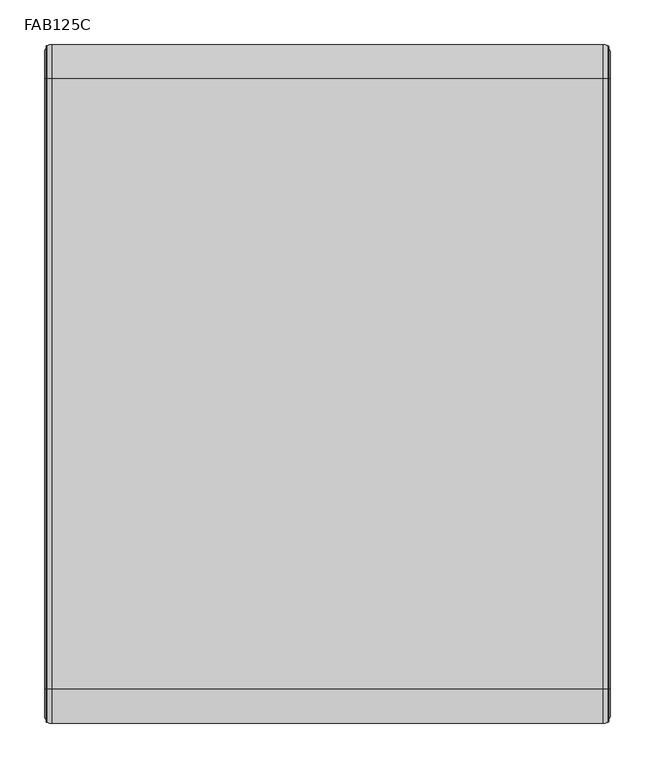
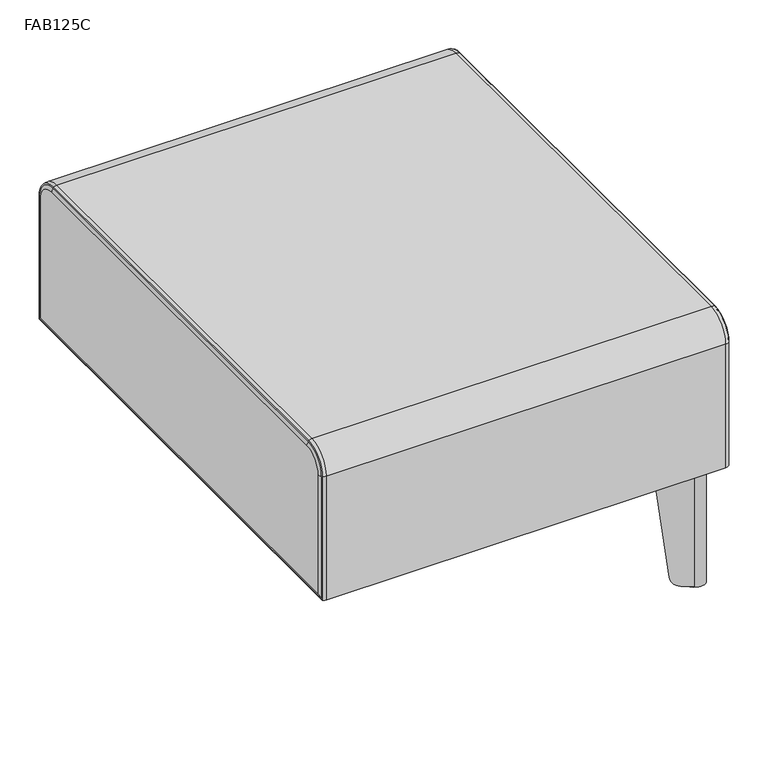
"""IFC4 building model written with IfcOpenShell, lengths in millimetres: furniture geometry, Stance_HC-Flora-Bench_Straight : FAB125C."""

import ifcopenshell
import ifcopenshell.guid

model = None  # the IFC model being written
_history = None  # IfcOwnerHistory: only IFC2X3 demands one
_inside = {}  # id of a spatial element -> (the spatial element, [elements in it])
_under = {}  # id of a project, library or spatial element -> (it, [spatial elements below it])
_declared = {}  # id of a project -> (the project, [libraries it declares])
_typed = {}  # id of a type object -> (the type object, [elements of that type])
_made_of = {}  # id of a material, layer set ... -> (it, [elements and type objects made of it])


def new_model(schema):
    """Start an empty IFC model of exactly this schema.

    Asked for "IFC4X3", IfcOpenShell would pick the latest addendum, in which some entities
    have other attributes; the version numbers below select the first issue.
    IFC2X3 requires an IfcOwnerHistory on every rooted entity: one is made here for all.
    """
    global model, _history
    if schema == "IFC4X3":
        model = ifcopenshell.file(schema_version=(4, 3, 0, 0))
    else:
        model = ifcopenshell.file(schema=schema)
    _inside.clear()
    _under.clear()
    _declared.clear()
    _typed.clear()
    _made_of.clear()
    _history = None
    if model.schema == "IFC2X3":
        org = make("IfcOrganization", Name="unknown")
        user = make(
            "IfcPersonAndOrganization",
            ThePerson=make("IfcPerson", FamilyName="unknown"),
            TheOrganization=org,
        )
        app = make(
            "IfcApplication",
            ApplicationDeveloper=org,
            Version="unknown",
            ApplicationFullName="unknown",
            ApplicationIdentifier="unknown",
        )
        _history = make(
            "IfcOwnerHistory",
            OwningUser=user,
            OwningApplication=app,
            ChangeAction="ADDED",
            CreationDate=0,
        )
    return model


def make(cls, **values):
    """One entity of the class cls with the attributes given. An attribute that is None is left unset."""
    return model.create_entity(
        cls, **{name: value for name, value in values.items() if value is not None}
    )


def rooted(cls, **values):
    """An entity with a GlobalId (a new one), such as an element, a storey or a relation."""
    return make(cls, GlobalId=ifcopenshell.guid.new(), OwnerHistory=_history, **values)


def si_unit(unit_type, name, prefix=None):
    """IfcSIUnit, for example si_unit("LENGTHUNIT", "METRE", prefix="MILLI")."""
    return make("IfcSIUnit", UnitType=unit_type, Prefix=prefix, Name=name)


def assignment(units):
    """IfcUnitAssignment: the units of a project."""
    return None if units is None else make("IfcUnitAssignment", Units=units)


def point(xyz):
    """IfcCartesianPoint."""
    return None if xyz is None else make("IfcCartesianPoint", Coordinates=xyz)


def direction(xyz):
    """IfcDirection."""
    return None if xyz is None else make("IfcDirection", DirectionRatios=xyz)


def frame(location, z_axis=None, x_axis=None):
    """IfcAxis2Placement3D, a coordinate frame: its origin and axes. An axis left out is left unset."""
    return make(
        "IfcAxis2Placement3D",
        Location=point(location),
        Axis=direction(z_axis),
        RefDirection=direction(x_axis),
    )


def frame_2d(location, x_axis=None):
    """IfcAxis2Placement2D, a coordinate frame in the plane: its origin and x axis."""
    return make(
        "IfcAxis2Placement2D", Location=point(location), RefDirection=direction(x_axis)
    )


def origin():
    """The frame at (0, 0, 0) with its axes left unset."""
    return frame((0.0, 0.0, 0.0))


def origin_with_axes():
    """The frame at (0, 0, 0) with the z axis (0, 0, 1) and the x axis (1, 0, 0) written out."""
    return frame((0.0, 0.0, 0.0), z_axis=(0.0, 0.0, 1.0), x_axis=(1.0, 0.0, 0.0))


def place(relative_to, where):
    """IfcLocalPlacement: puts the frame where relative to a parent placement (None: the world)."""
    return make(
        "IfcLocalPlacement", PlacementRelTo=relative_to, RelativePlacement=where
    )


def context(
    kind, dimensions, precision=None, world=None, true_north=None, identifier=None
):
    """IfcGeometricRepresentationContext, for example the 3D "Model" context."""
    return make(
        "IfcGeometricRepresentationContext",
        ContextIdentifier=identifier,
        ContextType=kind,
        CoordinateSpaceDimension=dimensions,
        Precision=precision,
        WorldCoordinateSystem=world,
        TrueNorth=true_north,
    )


def project(units=None, contexts=None):
    """IfcProject with its units and contexts."""
    return rooted(
        "IfcProject",
        Name="project",
        RepresentationContexts=contexts,
        UnitsInContext=assignment(units),
    )


def spatial(cls, under=None, at=None, **own):
    """A site, building, storey or space (cls), placed at a placement, below another one or the project."""
    s = rooted(cls, ObjectPlacement=at, **own)
    if under is not None:
        _under.setdefault(under.id(), (under, []))[1].append(s)
    return s


def polyline(points):
    """IfcPolyline through the points."""
    return make("IfcPolyline", Points=[point(p) for p in points])


def circle_curve(where, radius):
    """IfcCircle in the frame where."""
    return make("IfcCircle", Position=where, Radius=radius)


def ellipse_curve(where, semi_axis1, semi_axis2):
    """IfcEllipse in the frame where."""
    return make(
        "IfcEllipse", Position=where, SemiAxis1=semi_axis1, SemiAxis2=semi_axis2
    )


def trimmed(basis, trim1, trim2, sense, master):
    """IfcTrimmedCurve: the piece of a basis curve between two trims."""
    return make(
        "IfcTrimmedCurve",
        BasisCurve=basis,
        Trim1=trim1,
        Trim2=trim2,
        SenseAgreement=sense,
        MasterRepresentation=master,
    )


def segment(curve, same_sense, transition):
    """IfcCompositeCurveSegment."""
    return make(
        "IfcCompositeCurveSegment",
        Transition=transition,
        SameSense=same_sense,
        ParentCurve=curve,
    )


def composite_curve(segments, self_intersect=None):
    """IfcCompositeCurve: segments joined end to end."""
    return make("IfcCompositeCurve", Segments=segments, SelfIntersect=self_intersect)


def outline(outer, holes=None, kind="AREA"):
    """IfcArbitraryClosedProfileDef: a profile drawn as a closed curve; with holes, ...WithVoids."""
    if holes is None:
        return make("IfcArbitraryClosedProfileDef", ProfileType=kind, OuterCurve=outer)
    return make(
        "IfcArbitraryProfileDefWithVoids",
        ProfileType=kind,
        OuterCurve=outer,
        InnerCurves=holes,
    )


def extrude(swept, where, along, depth):
    """IfcExtrudedAreaSolid: the profile swept, set in the frame where, extruded along a direction by depth."""
    return make(
        "IfcExtrudedAreaSolid",
        SweptArea=swept,
        Position=where,
        ExtrudedDirection=direction(along),
        Depth=depth,
    )


def shape(context_of_items, identifier, shape_type, items):
    """IfcShapeRepresentation: the items that make up one representation, for example the "Body"."""
    return make(
        "IfcShapeRepresentation",
        ContextOfItems=context_of_items,
        RepresentationIdentifier=identifier,
        RepresentationType=shape_type,
        Items=items,
    )


def source(mapping_origin, context_of_items, identifier, shape_type, items):
    """IfcRepresentationMap: a shape defined once, which mapped items show again and again."""
    return make(
        "IfcRepresentationMap",
        MappingOrigin=mapping_origin,
        MappedRepresentation=shape(context_of_items, identifier, shape_type, items),
    )


def transform(
    local_origin,
    x_axis=None,
    y_axis=None,
    z_axis=None,
    scale=None,
    scale2=None,
    scale3=None,
    uniform=True,
):
    """IfcCartesianTransformationOperator3D, or its non-uniform kind. x_axis, y_axis, z_axis: its Axis1, 2, 3."""
    if uniform:
        return make(
            "IfcCartesianTransformationOperator3D",
            Axis1=direction(x_axis),
            Axis2=direction(y_axis),
            LocalOrigin=point(local_origin),
            Scale=scale,
            Axis3=direction(z_axis),
        )
    return make(
        "IfcCartesianTransformationOperator3DnonUniform",
        Axis1=direction(x_axis),
        Axis2=direction(y_axis),
        LocalOrigin=point(local_origin),
        Scale=scale,
        Axis3=direction(z_axis),
        Scale2=scale2,
        Scale3=scale3,
    )


def mapped(mapping_source, mapping_target):
    """IfcMappedItem: shows the shape of a source again, moved by a transform."""
    return make(
        "IfcMappedItem", MappingSource=mapping_source, MappingTarget=mapping_target
    )


def made_of(thing, what):
    """Note that an element or type object is made of a material, layer set ...; save() writes the relation."""
    if what is not None:
        _made_of.setdefault(what.id(), (what, []))[1].append(thing)
    return thing


def element(
    cls,
    number,
    at=None,
    inside=None,
    cuts=None,
    type_object=None,
    material=None,
    context=None,
    identifier="Body",
    shape_type=None,
    held_by="IfcProductDefinitionShape",
    body=None,
    shapes=None,
    **own,
):
    """One element of the class cls, such as IfcWall. Its Tag is "e" and its number.

    at: its placement. inside: the storey or other place that contains it. cuts: it is an
    opening in that element (IfcRelVoidsElement). A single representation is given by context,
    identifier, shape_type and body (its items); several are given by shapes. held_by: the class
    of the entity that holds the representations. save() writes the other relations.
    """
    e = rooted(cls, Tag="e%d" % number, ObjectPlacement=at, **own)
    if body is not None:
        shapes = [shape(context, identifier, shape_type, body)]
    if shapes is not None:
        e.Representation = make(held_by, Representations=shapes)
    if inside is not None:
        _inside.setdefault(inside.id(), (inside, []))[1].append(e)
    if cuts is not None:
        rooted(
            "IfcRelVoidsElement", RelatingBuildingElement=cuts, RelatedOpeningElement=e
        )
    if type_object is not None:
        _typed.setdefault(type_object.id(), (type_object, []))[1].append(e)
    return made_of(e, material)


def aggregate(whole, parts):
    """IfcRelAggregates: a whole, such as a stair, and the parts it consists of."""
    return rooted("IfcRelAggregates", RelatingObject=whole, RelatedObjects=parts)


def save(model, path):
    """Write the relations noted so far, then the file.

    IfcRelAggregates (storeys below a building ...), IfcRelContainedInSpatialStructure (elements
    in a storey), IfcRelDefinesByType, IfcRelAssociatesMaterial and IfcRelDeclares: one each for
    every whole, place, type object, material and project.
    """
    for whole, parts in _under.values():
        aggregate(whole, parts)
    for where, things in _inside.values():
        rooted(
            "IfcRelContainedInSpatialStructure",
            RelatedElements=things,
            RelatingStructure=where,
        )
    for kind, things in _typed.values():
        rooted("IfcRelDefinesByType", RelatedObjects=things, RelatingType=kind)
    for what, things in _made_of.values():
        rooted("IfcRelAssociatesMaterial", RelatedObjects=things, RelatingMaterial=what)
    for by, libraries in _declared.values():
        rooted("IfcRelDeclares", RelatingContext=by, RelatedDefinitions=libraries)
    model.write(path)


def plane_surface(at):
    """IfcPlane: the flat surface through the origin of the frame at, square to its z axis."""
    return make("IfcPlane", Position=at)


def cylinder_surface(at, radius):
    """IfcCylindricalSurface: all points at the distance radius from the z axis of the frame at."""
    return make("IfcCylindricalSurface", Position=at, Radius=radius)


def revolved_surface(curve, axis_point, axis_direction):
    """IfcSurfaceOfRevolution: the curve turned about the line through axis_point along axis_direction."""
    return make(
        "IfcSurfaceOfRevolution",
        SweptCurve=make("IfcArbitraryOpenProfileDef", ProfileType="CURVE", Curve=curve),
        AxisPosition=make("IfcAxis1Placement", Location=point(axis_point), Axis=direction(axis_direction)),
    )


def advanced_brep(points, edges, surfaces, faces):
    """IfcAdvancedBrep: a solid bounded by faces that lie on surfaces and meet in shared edges.

    An edge is (start, end): straight between two places in points (the first is 0);
    or (start, end, curve); or (start, end, curve, False) where it runs against its curve.
    A face is (place in surfaces, loops), or (place, loops, False) where it looks against
    its surface's normal. A loop lists edges by number (the first is 1), with a minus sign
    where the edge is run from its end to its start. The first loop is the outer one.
    """
    corners = [point(p) for p in points]
    vertices = [make("IfcVertexPoint", VertexGeometry=c) for c in corners]
    made = []
    for start, end, *more in edges:
        made.append(
            make(
                "IfcEdgeCurve",
                EdgeStart=vertices[start],
                EdgeEnd=vertices[end],
                EdgeGeometry=more[0] if more else make("IfcPolyline", Points=[corners[start], corners[end]]),
                SameSense=more[1] if len(more) > 1 else True,
            )
        )
    hull = []
    for where, loops, *sense in faces:
        bounds = []
        for j, loop in enumerate(loops):
            ring = [make("IfcOrientedEdge", EdgeElement=made[abs(k) - 1], Orientation=k > 0) for k in loop]
            bounds.append(
                make(
                    "IfcFaceOuterBound" if j == 0 else "IfcFaceBound",
                    Bound=make("IfcEdgeLoop", EdgeList=ring),
                    Orientation=True,
                )
            )
        hull.append(make("IfcAdvancedFace", Bounds=bounds, FaceSurface=surfaces[where], SameSense=sense[0] if sense else True))
    return make("IfcAdvancedBrep", Outer=make("IfcClosedShell", CfsFaces=hull))


def fab125c_67cc7816(model_context):
    return source(origin(), model_context, "Body", "SolidModel", [
        extrude(outline(composite_curve([segment(polyline([(579.1692791, -32.5186459), (592.4741789, -23.2024186)]), True, "CONTINUOUS"), segment(trimmed(circle_curve(frame_2d((599.1246983, -32.7003078)), 11.5947965), [point((592.4741789, -23.2024186))], [point((608.6225874, -39.3508272))], False, "CARTESIAN"), True, "CONTINUOUS"), segment(polyline([(608.6225874, -39.3508272), (599.3063601, -52.6557269), (579.1692791, -32.5186459)]), True, "CONTINUOUS")], self_intersect=False)), frame((0.0, 0.0, 3.175), z_axis=(0.0, 0.0, 1.0), x_axis=(1.0, 0.0, 0.0)), (0.0, 0.0, 1.0), 3.3792927),
        advanced_brep(
        [(579.3314582, -86.7866368, 193.6877233), (611.2555647, -41.1944649, 193.6877233), (590.6305412, -20.5694413, 193.6877233), (545.0383719, -52.4935459, 193.6877233), (546.8820096, -55.1265233, 193.6877233), (592.4741789, -23.2024186, 193.6877233), (608.6225874, -39.3508272, 193.6877233), (576.6984809, -84.9429991, 193.6877233), (579.3314582, -86.7866368, 189.1419595), (608.6225874, -39.3508272, 3.1876992), (598.5018779, -53.8046422, 3.1876992), (589.3247818, -66.9108427, 17.1280233), (592.4741789, -23.2024186, 3.1876992), (564.9141633, -42.5002243, 17.1280233), (578.0203639, -33.3231282, 3.1876992), (545.0383719, -52.4935459, 189.1419334), (590.6305412, -20.5694413, 3.1876992), (575.7124662, -31.0152305, 3.1876992), (562.6062656, -40.1923266, 17.1280233), (611.2555647, -41.1944649, 3.1876992), (591.6326795, -69.2187405, 17.1280233), (600.8097756, -56.1125399, 3.1876992)],
        [
            (0, 1),
            (1, 2, circle_curve(frame((599.1246983, -32.7003078, 193.6877233), z_axis=(0.0, 0.0, 1.0), x_axis=(-1.0, 0.0, 0.0)), 14.8090724)),
            (2, 3),
            (3, 4),
            (4, 5),
            (5, 6, circle_curve(frame((599.1246983, -32.7003078, 193.6877233), z_axis=(0.0, 0.0, -1.0), x_axis=(-1.0, 0.0, 0.0)), 11.5947965)),
            (6, 7),
            (7, 0),
            (7, 8),
            (8, 0),
            (6, 9),
            (9, 10),
            (10, 11, ellipse_curve(frame((598.5018779, -53.8046422, 19.0626992), z_axis=(-0.8191509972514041, 0.5735779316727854, 0.0), x_axis=(-0.5735779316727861, -0.8191509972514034, 0.0)), 16.1198923, 15.875)),
            (11, 7),
            (5, 12),
            (12, 9, circle_curve(frame((599.1246983, -32.7003078, 3.1876992), z_axis=(0.0, 0.0, -1.0), x_axis=(-1.0, 0.0, 0.0)), 11.5947965)),
            (4, 13),
            (13, 14, ellipse_curve(frame((578.0203639, -33.3231282, 19.0626992), z_axis=(0.5735779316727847, -0.8191509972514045, 0.0), x_axis=(0.8191509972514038, 0.5735779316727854, 0.0)), 16.1198923, 15.875)),
            (14, 12),
            (3, 15),
            (15, 4),
            (2, 16),
            (16, 17),
            (17, 18, ellipse_curve(frame((575.7124662, -31.0152305, 19.0626992), z_axis=(-0.5735779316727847, 0.8191509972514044, 0.0), x_axis=(0.8191509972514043, 0.573577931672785, 0.0)), 16.1198923, 15.875)),
            (18, 15),
            (1, 19),
            (19, 16, circle_curve(frame((599.1246983, -32.7003078, 3.1876992), z_axis=(0.0, 0.0, 1.0), x_axis=(-1.0, 0.0, 0.0)), 14.8090724)),
            (8, 20),
            (20, 21, ellipse_curve(frame((600.8097756, -56.1125399, 19.0626992), z_axis=(0.8191509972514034, -0.5735779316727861, 0.0), x_axis=(-0.5735779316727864, -0.8191509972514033, 0.0)), 16.1198923, 15.875)),
            (21, 19),
            (18, 13),
            (11, 20),
            (21, 10),
            (14, 17),
        ],
        [
            plane_surface(frame((576.6984809, -84.9429991, 193.6877233), z_axis=(0.0, 0.0, 1.0000000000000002), x_axis=(-0.8191509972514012, 0.5735779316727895, 0.0))),
            plane_surface(frame((579.3314582, -86.7866368, 193.6877233), z_axis=(-0.5735779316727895, -0.8191509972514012, 0.0), x_axis=(0.0, 0.0, -1.0))),
            plane_surface(frame((576.6984809, -84.9429991, 193.6877233), z_axis=(-0.8191509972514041, 0.5735779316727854, 0.0), x_axis=(0.0, 0.0, -1.0))),
            revolved_surface(polyline([(587.5299018, -32.7003078, 3.1876992), (587.5299018, -32.7003078, 193.6877233)]), (599.1246983, -32.7003078, 0.0), (0.0, 0.0, -1.0)),
            plane_surface(frame((592.4741789, -23.2024186, 193.6877233), z_axis=(0.5735779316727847, -0.8191509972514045, 0.0), x_axis=(0.0, 0.0, -1.0))),
            plane_surface(frame((546.8820096, -55.1265233, 193.6877233), z_axis=(-0.8191509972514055, -0.5735779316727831, 0.0), x_axis=(0.0, 0.0, -1.0))),
            plane_surface(frame((545.0383719, -52.4935459, 193.6877233), z_axis=(-0.5735779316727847, 0.8191509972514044, 0.0), x_axis=(0.0, 0.0, -1.0))),
            cylinder_surface(frame((599.1246983, -32.7003078, 0.0), z_axis=(0.0, 0.0, 1.0), x_axis=(-1.0, 0.0, 0.0)), 14.8090724),
            plane_surface(frame((611.2555647, -41.1944649, 193.6877233), z_axis=(0.8191509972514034, -0.5735779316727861, 0.0), x_axis=(0.0, 0.0, -1.0))),
            plane_surface(frame((556.7224625, -34.3085234, 17.1280233), z_axis=(-0.7018361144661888, -0.7018361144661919, -0.12186934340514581), x_axis=(0.7071067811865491, -0.707106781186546, 0.0))),
            plane_surface(frame((589.212818, -1.818168, 3.1876992), z_axis=(0.0, 0.0, -1.0), x_axis=(0.707106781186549, -0.707106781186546, 0.0))),
            cylinder_surface(frame((608.6497538, -63.9525182, 19.0626992), z_axis=(0.7071067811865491, -0.707106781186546, 0.0), x_axis=(-0.707106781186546, -0.7071067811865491, 0.0)), 15.875),
        ],
        [
            (0, [[1, 2, 3, 4, 5, 6, 7, 8]]),
            (1, [[9, 10, -8]]),
            (2, [[11, 12, 13, 14, -7]]),
            (3, [[15, 16, -11, -6]]),
            (4, [[17, 18, 19, -15, -5]]),
            (5, [[20, 21, -4]]),
            (6, [[22, 23, 24, 25, -20, -3]]),
            (7, [[26, 27, -22, -2]]),
            (8, [[-10, 28, 29, 30, -26, -1]]),
            (9, [[-17, -21, -25, 31]]),
            (9, [[-28, -9, -14, 32]]),
            (10, [[-23, -27, -30, 33, -12, -16, -19, 34]]),
            (11, [[-13, -33, -29, -32]]),
            (11, [[-24, -34, -18, -31]]),
        ],
    ),
        extrude(outline(composite_curve([segment(trimmed(circle_curve(frame_2d((597.0913541, -34.7252749)), 11.1125), [point((608.2038541, -34.7252749))], [point((585.9788541, -34.7252749))], False, "CARTESIAN"), True, "CONTINUOUS"), segment(trimmed(circle_curve(frame_2d((597.0913541, -34.7252749)), 11.1125), [point((585.9788541, -34.7252749))], [point((608.2038541, -34.7252749))], False, "CARTESIAN"), True, "CONTINUOUS")], self_intersect=False)), origin_with_axes(), (0.0, 0.0, 1.0), 3.175),
        extrude(outline(composite_curve([segment(trimmed(circle_curve(frame_2d((600.4438064, -31.3811988)), 15.8749964), [point((599.3364228, -15.5448732))], [point((616.2801321, -32.4885822))], False, "CARTESIAN"), True, "CONTINUOUS"), segment(polyline([(616.2801321, -32.4885822), (609.2831602, -132.5499778), (579.4327865, -162.4003462), (495.4896864, -136.3353271), (469.4246518, -52.3922188), (499.2750239, -22.5418467), (599.3364228, -15.5448732)]), True, "CONTINUOUS")], self_intersect=False)), frame((0.0, 0.0, 193.6877233), z_axis=(0.0, 0.0, 1.0), x_axis=(1.0, 0.0, 0.0)), (0.0, 0.0, 1.0), 4.7751809),
        extrude(outline(composite_curve([segment(polyline([(579.1692791, -729.4814086), (599.3063601, -709.3443276), (608.6225874, -722.6492273)]), True, "CONTINUOUS"), segment(trimmed(circle_curve(frame_2d((599.1246983, -729.2997467)), 11.5947965), [point((608.6225874, -722.6492273))], [point((592.4741789, -738.7976359))], False, "CARTESIAN"), True, "CONTINUOUS"), segment(polyline([(592.4741789, -738.7976359), (579.1692791, -729.4814086)]), True, "CONTINUOUS")], self_intersect=False)), frame((0.0, 0.0, 3.175), z_axis=(0.0, 0.0, 1.0), x_axis=(1.0, 0.0, 0.0)), (0.0, 0.0, 1.0), 3.3792927),
        advanced_brep(
        [(579.3314582, -675.2134177, 193.6877233), (576.6984809, -677.0570554, 193.6877233), (608.6225874, -722.6492273, 193.6877233), (592.4741789, -738.7976359, 193.6877233), (546.8820096, -706.8735312, 193.6877233), (545.0383719, -709.5065086, 193.6877233), (590.6305412, -741.4306132, 193.6877233), (611.2555647, -720.8055896, 193.6877233), (579.3314582, -675.2134177, 189.1419595), (589.3247818, -695.0892118, 17.1280233), (598.5018779, -708.1954123, 3.1876992), (608.6225874, -722.6492273, 3.1876992), (592.4741789, -738.7976359, 3.1876992), (578.0203639, -728.6769263, 3.1876992), (564.9141633, -719.4998302, 17.1280233), (545.0383719, -709.5065086, 189.1419334), (562.6062656, -721.8077279, 17.1280233), (575.7124662, -730.984824, 3.1876992), (590.6305412, -741.4306132, 3.1876992), (611.2555647, -720.8055896, 3.1876992), (600.8097756, -705.8875146, 3.1876992), (591.6326795, -692.781314, 17.1280233)],
        [
            (0, 1),
            (1, 2),
            (2, 3, circle_curve(frame((599.1246983, -729.2997467, 193.6877233), z_axis=(0.0, 0.0, -1.0), x_axis=(-1.0, 0.0, 0.0)), 11.5947965)),
            (3, 4),
            (4, 5),
            (5, 6),
            (6, 7, circle_curve(frame((599.1246983, -729.2997467, 193.6877233), z_axis=(0.0, 0.0, 1.0), x_axis=(-1.0, 0.0, 0.0)), 14.8090724)),
            (7, 0),
            (0, 8),
            (8, 1),
            (1, 9),
            (9, 10, ellipse_curve(frame((598.5018779, -708.1954123, 19.0626992), z_axis=(-0.8191509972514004, -0.5735779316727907, 0.0), x_axis=(-0.5735779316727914, 0.8191509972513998, 0.0)), 16.1198923, 15.875)),
            (10, 11),
            (11, 2),
            (11, 12, circle_curve(frame((599.1246983, -729.2997467, 3.1876992), z_axis=(0.0, 0.0, -1.0), x_axis=(-1.0, 0.0, 0.0)), 11.5947965)),
            (12, 3),
            (12, 13),
            (13, 14, ellipse_curve(frame((578.0203639, -728.6769263, 19.0626992), z_axis=(0.5735779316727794, 0.8191509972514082, 0.0), x_axis=(0.8191509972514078, -0.5735779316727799, 0.0)), 16.1198923, 15.875)),
            (14, 4),
            (4, 15),
            (15, 5),
            (15, 16),
            (16, 17, ellipse_curve(frame((575.7124662, -730.984824, 19.0626992), z_axis=(-0.5735779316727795, -0.8191509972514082, 0.0), x_axis=(0.8191509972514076, -0.5735779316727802, 0.0)), 16.1198923, 15.875)),
            (17, 18),
            (18, 6),
            (18, 19, circle_curve(frame((599.1246983, -729.2997467, 3.1876992), z_axis=(0.0, 0.0, 1.0), x_axis=(-1.0, 0.0, 0.0)), 14.8090724)),
            (19, 7),
            (19, 20),
            (20, 21, ellipse_curve(frame((600.8097756, -705.8875146, 19.0626992), z_axis=(0.8191509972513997, 0.5735779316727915, 0.0), x_axis=(-0.573577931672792, 0.8191509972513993, 0.0)), 16.1198923, 15.875)),
            (21, 8),
            (14, 16),
            (21, 9),
            (17, 13),
            (10, 20),
        ],
        [
            plane_surface(frame((576.6984809, -677.0570554, 193.6877233), z_axis=(0.0, 0.0, 0.9999999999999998), x_axis=(-0.8191509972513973, -0.5735779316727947, 0.0))),
            plane_surface(frame((579.3314582, -675.2134177, 193.6877233), z_axis=(-0.5735779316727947, 0.8191509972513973, 0.0), x_axis=(0.0, 0.0, -1.0))),
            plane_surface(frame((576.6984809, -677.0570554, 193.6877233), z_axis=(-0.8191509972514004, -0.5735779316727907, 0.0), x_axis=(0.0, 0.0, -1.0))),
            revolved_surface(polyline([(587.5299018, -729.2997467, 3.1876992), (587.5299018, -729.2997467, 193.6877233)]), (599.1246983, -729.2997467, 0.0), (0.0, 0.0, -1.0)),
            plane_surface(frame((592.4741789, -738.7976359, 193.6877233), z_axis=(0.5735779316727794, 0.8191509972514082, 0.0), x_axis=(0.0, 0.0, -1.0))),
            plane_surface(frame((546.8820096, -706.8735312, 193.6877233), z_axis=(-0.8191509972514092, 0.5735779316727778, 0.0), x_axis=(0.0, 0.0, -1.0))),
            plane_surface(frame((545.0383719, -709.5065086, 193.6877233), z_axis=(-0.5735779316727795, -0.8191509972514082, 0.0), x_axis=(0.0, 0.0, -1.0))),
            cylinder_surface(frame((599.1246983, -729.2997467, 0.0), z_axis=(0.0, 0.0, 1.0), x_axis=(-1.0, 0.0, 0.0)), 14.8090724),
            plane_surface(frame((611.2555647, -720.8055896, 193.6877233), z_axis=(0.8191509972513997, 0.5735779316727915, 0.0), x_axis=(0.0, 0.0, -1.0))),
            plane_surface(frame((556.7224625, -727.6915311, 17.1280233), z_axis=(-0.7018361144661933, 0.7018361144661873, -0.12186934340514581), x_axis=(0.7071067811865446, 0.7071067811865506, 0.0))),
            plane_surface(frame((589.212818, -760.1818865, 3.1876992), z_axis=(0.0, 0.0, -1.0), x_axis=(0.7071067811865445, 0.7071067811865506, 0.0))),
            cylinder_surface(frame((608.6497538, -698.0475363, 19.0626992), z_axis=(0.7071067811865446, 0.7071067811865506, 0.0), x_axis=(-0.7071067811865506, 0.7071067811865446, 0.0)), 15.875),
        ],
        [
            (0, [[1, 2, 3, 4, 5, 6, 7, 8]]),
            (1, [[-1, 9, 10]]),
            (2, [[-2, 11, 12, 13, 14]]),
            (3, [[-3, -14, 15, 16]]),
            (4, [[-4, -16, 17, 18, 19]]),
            (5, [[-5, 20, 21]]),
            (6, [[-6, -21, 22, 23, 24, 25]]),
            (7, [[-7, -25, 26, 27]]),
            (8, [[-8, -27, 28, 29, 30, -9]]),
            (9, [[31, -22, -20, -19]]),
            (9, [[32, -11, -10, -30]]),
            (10, [[33, -17, -15, -13, 34, -28, -26, -24]]),
            (11, [[-31, -18, -33, -23]]),
            (11, [[-32, -29, -34, -12]]),
        ],
    ),
        extrude(outline(composite_curve([segment(trimmed(circle_curve(frame_2d((597.0913541, -727.2747796)), 11.1125), [point((608.2038541, -727.2747796))], [point((585.9788541, -727.2747796))], False, "CARTESIAN"), True, "CONTINUOUS"), segment(trimmed(circle_curve(frame_2d((597.0913541, -727.2747796)), 11.1125), [point((585.9788541, -727.2747796))], [point((608.2038541, -727.2747796))], False, "CARTESIAN"), True, "CONTINUOUS")], self_intersect=False)), origin_with_axes(), (0.0, 0.0, 1.0), 3.175),
        extrude(outline(composite_curve([segment(polyline([(599.3364228, -746.4551813), (499.2750239, -739.4582078), (469.4246518, -709.6078357), (495.4896864, -625.6647274), (579.4327865, -599.5997083), (609.2831602, -629.4500767), (616.2801321, -729.5114723)]), True, "CONTINUOUS"), segment(trimmed(circle_curve(frame_2d((600.4438064, -730.6188557)), 15.8749964), [point((616.2801321, -729.5114723))], [point((599.3364228, -746.4551813))], False, "CARTESIAN"), True, "CONTINUOUS")], self_intersect=False)), frame((0.0, 0.0, 193.6877233), z_axis=(0.0, 0.0, 1.0), x_axis=(1.0, 0.0, 0.0)), (0.0, 0.0, 1.0), 4.7751809),
        advanced_brep(
        [(635.0, -723.9, 431.00625), (635.0, -753.26875, 401.6375), (635.0, -753.26875, 207.1687439), (635.0, -8.73125, 207.1687439), (635.0, -8.73125, 401.6375), (635.0, -38.1, 431.00625), (0.0, -753.26875, 401.6375), (0.0, -723.9, 431.00625), (0.0, -38.1, 431.00625), (0.0, -8.73125, 401.6375), (0.0, -8.73125, 207.1687439), (0.0, -753.26875, 207.1687439), (626.5158065, -762.0, 401.6375), (626.5158065, -723.9, 439.7375), (8.4841935, -723.9, 439.7375), (8.4841935, -762.0, 401.6375), (8.4841935, -762.0, 198.4374939), (626.5158065, -762.0, 198.4374939), (8.4841935, 0.0, 198.4374939), (626.5158065, 0.0, 198.4374939), (8.4841935, 0.0, 401.6375), (626.5158065, 0.0, 401.6375), (8.4841935, -38.1, 439.7375), (626.5158065, -38.1, 439.7375), (2.6434528, -758.9617195, 401.6375), (2.6434528, -723.9, 436.6992195), (2.5810757, -760.8954092, 401.6375), (2.5810757, -723.9, 438.6329092), (2.6434528, -758.9617195, 201.4757744), (2.5810757, -760.8954092, 199.5420847), (2.6434528, -3.0382805, 201.4757744), (2.5810757, -1.1045908, 199.5420847), (2.6434528, -3.0382805, 401.6375), (2.5810757, -1.1045908, 401.6375), (2.6434528, -38.1, 436.6992195), (2.5810757, -38.1, 438.6329092), (632.4189243, -760.8954092, 401.6375), (632.4189243, -723.9, 438.6329092), (632.3565472, -758.9617195, 401.6375), (632.3565472, -723.9, 436.6992195), (632.4189243, -760.8954092, 199.5420847), (632.3565472, -758.9617195, 201.4757744), (632.4189243, -1.1045908, 199.5420847), (632.3565472, -3.0382805, 201.4757744), (632.4189243, -1.1045908, 401.6375), (632.3565472, -3.0382805, 401.6375), (632.4189243, -38.1, 438.6329092), (632.3565472, -38.1, 436.6992195)],
        [
            (0, 1, circle_curve(frame((635.0, -723.9, 401.6375), z_axis=(1.0, 0.0, 0.0), x_axis=(0.0, 0.0, 1.0)), 29.36875)),
            (1, 2),
            (2, 3),
            (3, 4),
            (4, 5, circle_curve(frame((635.0, -38.1, 401.6375), z_axis=(1.0, 0.0, 0.0), x_axis=(0.0, 1.0, 0.0)), 29.36875)),
            (5, 0),
            (6, 7, circle_curve(frame((0.0, -723.9, 401.6375), z_axis=(-1.0, 0.0, 0.0), x_axis=(0.0, 0.0, 1.0)), 29.36875)),
            (7, 8),
            (8, 9, circle_curve(frame((0.0, -38.1, 401.6375), z_axis=(-1.0, 0.0, 0.0), x_axis=(0.0, 1.0, 0.0)), 29.36875)),
            (9, 10),
            (10, 11),
            (11, 6),
            (12, 13, circle_curve(frame((626.5158065, -723.9, 401.6375), z_axis=(-1.0, 0.0, 0.0), x_axis=(0.0, 0.0, 1.0)), 38.1)),
            (13, 14),
            (14, 15, circle_curve(frame((8.4841935, -723.9, 401.6375), z_axis=(1.0, 0.0, 0.0), x_axis=(0.0, 0.0, 1.0)), 38.1)),
            (15, 12),
            (15, 16),
            (16, 17),
            (17, 12),
            (16, 18),
            (18, 19),
            (19, 17),
            (18, 20),
            (20, 21),
            (21, 19),
            (20, 22, circle_curve(frame((8.4841935, -38.1, 401.6375), z_axis=(1.0, 0.0, 0.0), x_axis=(0.0, 1.0, 0.0)), 38.1)),
            (22, 23),
            (23, 21, circle_curve(frame((626.5158065, -38.1, 401.6375), z_axis=(-1.0, 0.0, 0.0), x_axis=(0.0, 1.0, 0.0)), 38.1)),
            (13, 23),
            (22, 14),
            (24, 25, circle_curve(frame((2.6434528, -723.9, 401.6375), z_axis=(-1.0, 0.0, 0.0), x_axis=(0.0, 0.0, 1.0)), 35.0617195)),
            (25, 7, circle_curve(frame((7.4519478, -723.9, 431.00625), z_axis=(0.0, -1.0, 0.0), x_axis=(0.0, 0.0, -1.0)), 7.4519478)),
            (6, 24, circle_curve(frame((7.4519478, -753.26875, 401.6375), z_axis=(0.0, 0.0, 1.0), x_axis=(0.0, 1.0, 0.0)), 7.4519478)),
            (24, 26, circle_curve(frame((2.9517888, -759.9395168, 401.6375), z_axis=(0.0, 0.0, 1.0), x_axis=(0.0, 1.0, 0.0)), 1.0252602)),
            (26, 27, circle_curve(frame((2.5810757, -723.9, 401.6375), z_axis=(-1.0, 0.0, 0.0), x_axis=(0.0, 0.0, 1.0)), 36.9954092)),
            (27, 25, circle_curve(frame((2.9517888, -723.9, 437.6770168), z_axis=(0.0, -1.0, 0.0), x_axis=(0.0, 0.0, -1.0)), 1.0252602)),
            (14, 27, circle_curve(frame((8.4841935, -723.9, 423.4115809), z_axis=(0.0, -1.0, 0.0), x_axis=(0.0, 0.0, -1.0)), 16.3259191)),
            (26, 15, circle_curve(frame((8.4841935, -745.6740809, 401.6375), z_axis=(0.0, 0.0, 1.0), x_axis=(0.0, 1.0, 0.0)), 16.3259191)),
            (11, 28, ellipse_curve(frame((7.4519478, -753.26875, 207.1687439), z_axis=(0.0, -0.7071067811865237, 0.7071067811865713), x_axis=(0.0, 0.7071067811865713, 0.7071067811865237)), 10.5386456, 7.4519478)),
            (28, 24),
            (28, 29, ellipse_curve(frame((2.9517888, -759.9395168, 200.4979772), z_axis=(0.0, -0.7071067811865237, 0.7071067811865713), x_axis=(0.0, 0.7071067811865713, 0.7071067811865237)), 1.4499369, 1.0252602)),
            (29, 26),
            (29, 16, ellipse_curve(frame((8.4841935, -745.6740809, 214.763413), z_axis=(0.0, -0.7071067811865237, 0.7071067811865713), x_axis=(0.0, 0.7071067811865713, 0.7071067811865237)), 23.0883362, 16.3259191)),
            (10, 30, ellipse_curve(frame((7.4519478, -8.73125, 207.1687439), z_axis=(0.0, -0.7071067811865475, -0.7071067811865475), x_axis=(0.0, -0.7071067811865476, 0.7071067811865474)), 10.5386456, 7.4519478)),
            (30, 28),
            (30, 31, ellipse_curve(frame((2.9517888, -2.0604832, 200.4979772), z_axis=(0.0, -0.7071067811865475, -0.7071067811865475), x_axis=(0.0, -0.7071067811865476, 0.7071067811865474)), 1.4499369, 1.0252602)),
            (31, 29),
            (31, 18, ellipse_curve(frame((8.4841935, -16.3259191, 214.763413), z_axis=(0.0, -0.7071067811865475, -0.7071067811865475), x_axis=(0.0, -0.7071067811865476, 0.7071067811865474)), 23.0883362, 16.3259191)),
            (9, 32, circle_curve(frame((7.4519478, -8.73125, 401.6375), z_axis=(0.0, 0.0, -1.0), x_axis=(0.0, -1.0, 0.0)), 7.4519478)),
            (32, 30),
            (32, 33, circle_curve(frame((2.9517888, -2.0604832, 401.6375), z_axis=(0.0, 0.0, -1.0), x_axis=(0.0, -1.0, 0.0)), 1.0252602)),
            (33, 31),
            (33, 20, circle_curve(frame((8.4841935, -16.3259191, 401.6375), z_axis=(0.0, 0.0, -1.0), x_axis=(0.0, -1.0, 0.0)), 16.3259191)),
            (8, 34, circle_curve(frame((7.4519478, -38.1, 431.00625), z_axis=(0.0, 1.0, 0.0), x_axis=(0.0, 0.0, -1.0)), 7.4519478)),
            (34, 32, circle_curve(frame((2.6434528, -38.1, 401.6375), z_axis=(-1.0, 0.0, 0.0), x_axis=(0.0, 1.0, 0.0)), 35.0617195)),
            (34, 35, circle_curve(frame((2.9517888, -38.1, 437.6770168), z_axis=(0.0, 1.0, 0.0), x_axis=(0.0, 0.0, -1.0)), 1.0252602)),
            (35, 33, circle_curve(frame((2.5810757, -38.1, 401.6375), z_axis=(-1.0, 0.0, 0.0), x_axis=(0.0, 1.0, 0.0)), 36.9954092)),
            (35, 22, circle_curve(frame((8.4841935, -38.1, 423.4115809), z_axis=(0.0, 1.0, 0.0), x_axis=(0.0, 0.0, -1.0)), 16.3259191)),
            (25, 34),
            (27, 35),
            (12, 36, circle_curve(frame((626.5158065, -745.6740809, 401.6375), z_axis=(0.0, 0.0, 1.0), x_axis=(0.0, 1.0, 0.0)), 16.3259191)),
            (36, 37, circle_curve(frame((632.4189243, -723.9, 401.6375), z_axis=(-1.0, 0.0, 0.0), x_axis=(0.0, 0.0, 1.0)), 36.9954092)),
            (37, 13, circle_curve(frame((626.5158065, -723.9, 423.4115809), z_axis=(0.0, -1.0, 0.0), x_axis=(0.0, 0.0, -1.0)), 16.3259191)),
            (36, 38, circle_curve(frame((632.0482112, -759.9395168, 401.6375), z_axis=(0.0, 0.0, 1.0), x_axis=(0.0, 1.0, 0.0)), 1.0252602)),
            (38, 39, circle_curve(frame((632.3565472, -723.9, 401.6375), z_axis=(-1.0, 0.0, 0.0), x_axis=(0.0, 0.0, 1.0)), 35.0617195)),
            (39, 37, circle_curve(frame((632.0482112, -723.9, 437.6770168), z_axis=(0.0, -1.0, 0.0), x_axis=(0.0, 0.0, -1.0)), 1.0252602)),
            (38, 1, circle_curve(frame((627.5480522, -753.26875, 401.6375), z_axis=(0.0, 0.0, 1.0), x_axis=(0.0, 1.0, 0.0)), 7.4519478)),
            (0, 39, circle_curve(frame((627.5480522, -723.9, 431.00625), z_axis=(0.0, -1.0, 0.0), x_axis=(0.0, 0.0, -1.0)), 7.4519478)),
            (17, 40, ellipse_curve(frame((626.5158065, -745.6740809, 214.763413), z_axis=(0.0, -0.7071067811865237, 0.7071067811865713), x_axis=(0.0, 0.7071067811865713, 0.7071067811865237)), 23.0883362, 16.3259191)),
            (40, 36),
            (40, 41, ellipse_curve(frame((632.0482112, -759.9395168, 200.4979772), z_axis=(0.0, -0.7071067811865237, 0.7071067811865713), x_axis=(0.0, 0.7071067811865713, 0.7071067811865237)), 1.4499369, 1.0252602)),
            (41, 38),
            (41, 2, ellipse_curve(frame((627.5480522, -753.26875, 207.1687439), z_axis=(0.0, -0.7071067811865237, 0.7071067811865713), x_axis=(0.0, 0.7071067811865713, 0.7071067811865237)), 10.5386456, 7.4519478)),
            (19, 42, ellipse_curve(frame((626.5158065, -16.3259191, 214.763413), z_axis=(0.0, -0.7071067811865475, -0.7071067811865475), x_axis=(0.0, -0.7071067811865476, 0.7071067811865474)), 23.0883362, 16.3259191)),
            (42, 40),
            (42, 43, ellipse_curve(frame((632.0482112, -2.0604832, 200.4979772), z_axis=(0.0, -0.7071067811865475, -0.7071067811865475), x_axis=(0.0, -0.7071067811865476, 0.7071067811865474)), 1.4499369, 1.0252602)),
            (43, 41),
            (43, 3, ellipse_curve(frame((627.5480522, -8.73125, 207.1687439), z_axis=(0.0, -0.7071067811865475, -0.7071067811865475), x_axis=(0.0, -0.7071067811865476, 0.7071067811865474)), 10.5386456, 7.4519478)),
            (21, 44, circle_curve(frame((626.5158065, -16.3259191, 401.6375), z_axis=(0.0, 0.0, -1.0), x_axis=(0.0, -1.0, 0.0)), 16.3259191)),
            (44, 42),
            (44, 45, circle_curve(frame((632.0482112, -2.0604832, 401.6375), z_axis=(0.0, 0.0, -1.0), x_axis=(0.0, -1.0, 0.0)), 1.0252602)),
            (45, 43),
            (45, 4, circle_curve(frame((627.5480522, -8.73125, 401.6375), z_axis=(0.0, 0.0, -1.0), x_axis=(0.0, -1.0, 0.0)), 7.4519478)),
            (23, 46, circle_curve(frame((626.5158065, -38.1, 423.4115809), z_axis=(0.0, 1.0, 0.0), x_axis=(0.0, 0.0, -1.0)), 16.3259191)),
            (46, 44, circle_curve(frame((632.4189243, -38.1, 401.6375), z_axis=(-1.0, 0.0, 0.0), x_axis=(0.0, 1.0, 0.0)), 36.9954092)),
            (46, 47, circle_curve(frame((632.0482112, -38.1, 437.6770168), z_axis=(0.0, 1.0, 0.0), x_axis=(0.0, 0.0, -1.0)), 1.0252602)),
            (47, 45, circle_curve(frame((632.3565472, -38.1, 401.6375), z_axis=(-1.0, 0.0, 0.0), x_axis=(0.0, 1.0, 0.0)), 35.0617195)),
            (47, 5, circle_curve(frame((627.5480522, -38.1, 431.00625), z_axis=(0.0, 1.0, 0.0), x_axis=(0.0, 0.0, -1.0)), 7.4519478)),
            (37, 46),
            (39, 47),
        ],
        [
            plane_surface(frame((635.0, -723.9, 431.00625), z_axis=(1.0, 0.0, 0.0), x_axis=(0.0, -1.0, 0.0))),
            plane_surface(frame((0.0, -723.9, 431.00625), z_axis=(-1.0, 0.0, 0.0), x_axis=(0.0, 1.0, 0.0))),
            cylinder_surface(frame((0.0, -723.9, 401.6375), z_axis=(1.0, 0.0, 0.0), x_axis=(0.0, 0.0, 1.0)), 38.1),
            plane_surface(frame((8.4841935, -762.0, 401.6375), z_axis=(0.0, -1.0, 0.0), x_axis=(0.0, 0.0, -1.0))),
            plane_surface(frame((8.4841935, -762.0, 198.4374939), z_axis=(0.0, 0.0, -1.0), x_axis=(0.0, 1.0, 0.0))),
            plane_surface(frame((8.4841935, 0.0, 198.4374939), z_axis=(0.0, 1.0, 0.0), x_axis=(0.0, 0.0, 1.0))),
            cylinder_surface(frame((0.0, -38.1, 401.6375), z_axis=(1.0, 0.0, 0.0), x_axis=(0.0, 1.0, 0.0)), 38.1),
            plane_surface(frame((8.4841935, -38.1, 439.7375), z_axis=(0.0, 0.0, 1.0), x_axis=(0.0, -1.0, 0.0))),
            revolved_surface(trimmed(ellipse_curve(frame((7.4519478, -723.9, 431.00625), z_axis=(0.0, 1.0, 0.0), x_axis=(0.0, 0.0, -1.0)), 7.4519478, 7.4519478), [point((0.0, -723.9, 431.00625))], [point((2.6434528, -723.9, 436.6992195))], True, "CARTESIAN"), (0.0, -723.9, 401.6375), (1.0, 0.0, 0.0)),
            revolved_surface(trimmed(ellipse_curve(frame((2.9517888, -723.9, 437.6770168), z_axis=(0.0, 1.0, 0.0), x_axis=(0.0, 0.0, -1.0)), 1.0252602, 1.0252602), [point((2.6434528, -723.9, 436.6992195))], [point((2.5810757, -723.9, 438.6329092))], True, "CARTESIAN"), (0.0, -723.9, 401.6375), (1.0, 0.0, 0.0)),
            revolved_surface(trimmed(ellipse_curve(frame((8.4841935, -723.9, 423.4115809), z_axis=(0.0, 1.0, 0.0), x_axis=(0.0, 0.0, -1.0)), 16.3259191, 16.3259191), [point((2.5810757, -723.9, 438.6329092))], [point((8.4841935, -723.9, 439.7375))], True, "CARTESIAN"), (0.0, -723.9, 401.6375), (1.0, 0.0, 0.0)),
            cylinder_surface(frame((7.4519478, -753.26875, 401.6375), z_axis=(0.0, 0.0, 1.0), x_axis=(0.0, 1.0, 0.0)), 7.4519478),
            cylinder_surface(frame((2.9517888, -759.9395168, 401.6375), z_axis=(0.0, 0.0, 1.0), x_axis=(0.0, 1.0, 0.0)), 1.0252602),
            cylinder_surface(frame((8.4841935, -745.6740809, 401.6375), z_axis=(0.0, 0.0, 1.0), x_axis=(0.0, 1.0, 0.0)), 16.3259191),
            cylinder_surface(frame((7.4519478, -762.0, 207.1687439), z_axis=(0.0, -1.0, 0.0), x_axis=(0.0, 0.0, 1.0)), 7.4519478),
            cylinder_surface(frame((2.9517888, -762.0, 200.4979772), z_axis=(0.0, -1.0, 0.0), x_axis=(0.0, 0.0, 1.0)), 1.0252602),
            cylinder_surface(frame((8.4841935, -762.0, 214.763413), z_axis=(0.0, -1.0, 0.0), x_axis=(0.0, 0.0, 1.0)), 16.3259191),
            cylinder_surface(frame((7.4519478, -8.73125, 198.4374939), z_axis=(0.0, 0.0, -1.0), x_axis=(0.0, -1.0, 0.0)), 7.4519478),
            cylinder_surface(frame((2.9517888, -2.0604832, 198.4374939), z_axis=(0.0, 0.0, -1.0), x_axis=(0.0, -1.0, 0.0)), 1.0252602),
            cylinder_surface(frame((8.4841935, -16.3259191, 198.4374939), z_axis=(0.0, 0.0, -1.0), x_axis=(0.0, -1.0, 0.0)), 16.3259191),
            revolved_surface(trimmed(ellipse_curve(frame((7.4519478, -8.73125, 401.6375), z_axis=(0.0, 0.0, -1.0), x_axis=(0.0, -1.0, 0.0)), 7.4519478, 7.4519478), [point((0.0, -8.73125, 401.6375))], [point((2.6434528, -3.0382805, 401.6375))], True, "CARTESIAN"), (0.0, -38.1, 401.6375), (1.0, 0.0, 0.0)),
            revolved_surface(trimmed(ellipse_curve(frame((2.9517888, -2.0604832, 401.6375), z_axis=(0.0, 0.0, -1.0), x_axis=(0.0, -1.0, 0.0)), 1.0252602, 1.0252602), [point((2.6434528, -3.0382805, 401.6375))], [point((2.5810757, -1.1045908, 401.6375))], True, "CARTESIAN"), (0.0, -38.1, 401.6375), (1.0, 0.0, 0.0)),
            revolved_surface(trimmed(ellipse_curve(frame((8.4841935, -16.3259191, 401.6375), z_axis=(0.0, 0.0, -1.0), x_axis=(0.0, -1.0, 0.0)), 16.3259191, 16.3259191), [point((2.5810757, -1.1045908, 401.6375))], [point((8.4841935, 0.0, 401.6375))], True, "CARTESIAN"), (0.0, -38.1, 401.6375), (1.0, 0.0, 0.0)),
            cylinder_surface(frame((7.4519478, -38.1, 431.00625), z_axis=(0.0, 1.0, 0.0), x_axis=(0.0, 0.0, -1.0)), 7.4519478),
            cylinder_surface(frame((2.9517888, -38.1, 437.6770168), z_axis=(0.0, 1.0, 0.0), x_axis=(0.0, 0.0, -1.0)), 1.0252602),
            cylinder_surface(frame((8.4841935, -38.1, 423.4115809), z_axis=(0.0, 1.0, 0.0), x_axis=(0.0, 0.0, -1.0)), 16.3259191),
            revolved_surface(trimmed(ellipse_curve(frame((626.5158065, -723.9, 423.4115809), z_axis=(0.0, 1.0, 0.0), x_axis=(0.0, 0.0, -1.0)), 16.3259191, 16.3259191), [point((626.5158065, -723.9, 439.7375))], [point((632.4189243, -723.9, 438.6329092))], True, "CARTESIAN"), (0.0, -723.9, 401.6375), (1.0, 0.0, 0.0)),
            revolved_surface(trimmed(ellipse_curve(frame((632.0482112, -723.9, 437.6770168), z_axis=(0.0, 1.0, 0.0), x_axis=(0.0, 0.0, -1.0)), 1.0252602, 1.0252602), [point((632.4189243, -723.9, 438.6329092))], [point((632.3565472, -723.9, 436.6992195))], True, "CARTESIAN"), (0.0, -723.9, 401.6375), (1.0, 0.0, 0.0)),
            revolved_surface(trimmed(ellipse_curve(frame((627.5480522, -723.9, 431.00625), z_axis=(0.0, 1.0, 0.0), x_axis=(0.0, 0.0, -1.0)), 7.4519478, 7.4519478), [point((632.3565472, -723.9, 436.6992195))], [point((635.0, -723.9, 431.00625))], True, "CARTESIAN"), (0.0, -723.9, 401.6375), (1.0, 0.0, 0.0)),
            cylinder_surface(frame((626.5158065, -745.6740809, 401.6375), z_axis=(0.0, 0.0, 1.0), x_axis=(0.0, 1.0, 0.0)), 16.3259191),
            cylinder_surface(frame((632.0482112, -759.9395168, 401.6375), z_axis=(0.0, 0.0, 1.0), x_axis=(0.0, 1.0, 0.0)), 1.0252602),
            cylinder_surface(frame((627.5480522, -753.26875, 401.6375), z_axis=(0.0, 0.0, 1.0), x_axis=(0.0, 1.0, 0.0)), 7.4519478),
            cylinder_surface(frame((626.5158065, -762.0, 214.763413), z_axis=(0.0, -1.0, 0.0), x_axis=(0.0, 0.0, 1.0)), 16.3259191),
            cylinder_surface(frame((632.0482112, -762.0, 200.4979772), z_axis=(0.0, -1.0, 0.0), x_axis=(0.0, 0.0, 1.0)), 1.0252602),
            cylinder_surface(frame((627.5480522, -762.0, 207.1687439), z_axis=(0.0, -1.0, 0.0), x_axis=(0.0, 0.0, 1.0)), 7.4519478),
            cylinder_surface(frame((626.5158065, -16.3259191, 198.4374939), z_axis=(0.0, 0.0, -1.0), x_axis=(0.0, -1.0, 0.0)), 16.3259191),
            cylinder_surface(frame((632.0482112, -2.0604832, 198.4374939), z_axis=(0.0, 0.0, -1.0), x_axis=(0.0, -1.0, 0.0)), 1.0252602),
            cylinder_surface(frame((627.5480522, -8.73125, 198.4374939), z_axis=(0.0, 0.0, -1.0), x_axis=(0.0, -1.0, 0.0)), 7.4519478),
            revolved_surface(trimmed(ellipse_curve(frame((626.5158065, -16.3259191, 401.6375), z_axis=(0.0, 0.0, -1.0), x_axis=(0.0, -1.0, 0.0)), 16.3259191, 16.3259191), [point((626.5158065, 0.0, 401.6375))], [point((632.4189243, -1.1045908, 401.6375))], True, "CARTESIAN"), (0.0, -38.1, 401.6375), (1.0, 0.0, 0.0)),
            revolved_surface(trimmed(ellipse_curve(frame((632.0482112, -2.0604832, 401.6375), z_axis=(0.0, 0.0, -1.0), x_axis=(0.0, -1.0, 0.0)), 1.0252602, 1.0252602), [point((632.4189243, -1.1045908, 401.6375))], [point((632.3565472, -3.0382805, 401.6375))], True, "CARTESIAN"), (0.0, -38.1, 401.6375), (1.0, 0.0, 0.0)),
            revolved_surface(trimmed(ellipse_curve(frame((627.5480522, -8.73125, 401.6375), z_axis=(0.0, 0.0, -1.0), x_axis=(0.0, -1.0, 0.0)), 7.4519478, 7.4519478), [point((632.3565472, -3.0382805, 401.6375))], [point((635.0, -8.73125, 401.6375))], True, "CARTESIAN"), (0.0, -38.1, 401.6375), (1.0, 0.0, 0.0)),
            cylinder_surface(frame((626.5158065, -38.1, 423.4115809), z_axis=(0.0, 1.0, 0.0), x_axis=(0.0, 0.0, -1.0)), 16.3259191),
            cylinder_surface(frame((632.0482112, -38.1, 437.6770168), z_axis=(0.0, 1.0, 0.0), x_axis=(0.0, 0.0, -1.0)), 1.0252602),
            cylinder_surface(frame((627.5480522, -38.1, 431.00625), z_axis=(0.0, 1.0, 0.0), x_axis=(0.0, 0.0, -1.0)), 7.4519478),
        ],
        [
            (0, [[1, 2, 3, 4, 5, 6]]),
            (1, [[7, 8, 9, 10, 11, 12]]),
            (2, [[13, 14, 15, 16]]),
            (3, [[-16, 17, 18, 19]]),
            (4, [[-18, 20, 21, 22]]),
            (5, [[-21, 23, 24, 25]]),
            (6, [[-24, 26, 27, 28]]),
            (7, [[-14, 29, -27, 30]]),
            (8, [[31, 32, -7, 33]]),
            (9, [[-31, 34, 35, 36]]),
            (10, [[-15, 37, -35, 38]]),
            (11, [[-33, -12, 39, 40]]),
            (12, [[-34, -40, 41, 42]]),
            (13, [[-17, -38, -42, 43]]),
            (14, [[-39, -11, 44, 45]]),
            (15, [[-41, -45, 46, 47]]),
            (16, [[-20, -43, -47, 48]]),
            (17, [[-44, -10, 49, 50]]),
            (18, [[-46, -50, 51, 52]]),
            (19, [[-23, -48, -52, 53]]),
            (20, [[-49, -9, 54, 55]]),
            (21, [[-51, -55, 56, 57]]),
            (22, [[-26, -53, -57, 58]]),
            (23, [[-32, 59, -54, -8]]),
            (24, [[-36, 60, -56, -59]]),
            (25, [[-30, -58, -60, -37]]),
            (26, [[-13, 61, 62, 63]]),
            (27, [[-62, 64, 65, 66]]),
            (28, [[-65, 67, -1, 68]]),
            (29, [[-19, 69, 70, -61]]),
            (30, [[-64, -70, 71, 72]]),
            (31, [[-67, -72, 73, -2]]),
            (32, [[-22, 74, 75, -69]]),
            (33, [[-71, -75, 76, 77]]),
            (34, [[-73, -77, 78, -3]]),
            (35, [[-25, 79, 80, -74]]),
            (36, [[-76, -80, 81, 82]]),
            (37, [[-78, -82, 83, -4]]),
            (38, [[-28, 84, 85, -79]]),
            (39, [[-81, -85, 86, 87]]),
            (40, [[-83, -87, 88, -5]]),
            (41, [[-29, -63, 89, -84]]),
            (42, [[-66, 90, -86, -89]]),
            (43, [[-68, -6, -88, -90]]),
        ],
    ),
    ])


if __name__ == "__main__":
    model = new_model("IFC4")
    model_context = context("Model", 3, world=origin())
    ifc_project = project(units=[si_unit("LENGTHUNIT", "METRE", prefix="MILLI")], contexts=[model_context])
    site = spatial("IfcSite", under=ifc_project)
    building = spatial("IfcBuilding", under=site)
    placement = place(None, origin())
    fab125c_shape = fab125c_67cc7816(model_context)
    element("IfcFurniture", 1, ObjectType="Stance_HC-Flora-Bench_Straight : FAB125C", at=placement, inside=building, context=model_context, shape_type="MappedRepresentation", body=[
        mapped(fab125c_shape, transform((0.0, 0.0, 0.0), x_axis=(1.0, 0.0, 0.0), y_axis=(0.0, 1.0, 0.0), z_axis=(0.0, 0.0, 1.0))),
    ])
    save(model, "model.ifc")
